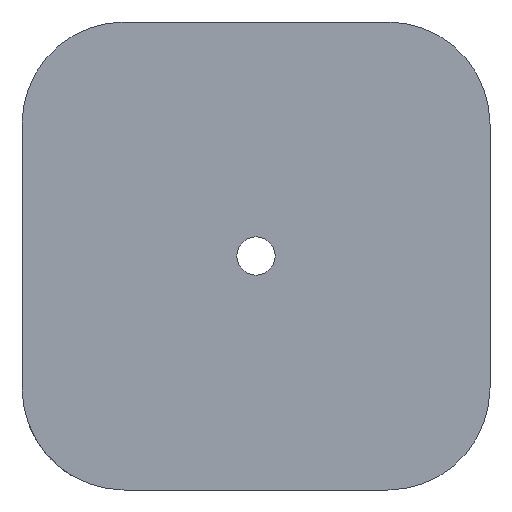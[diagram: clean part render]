
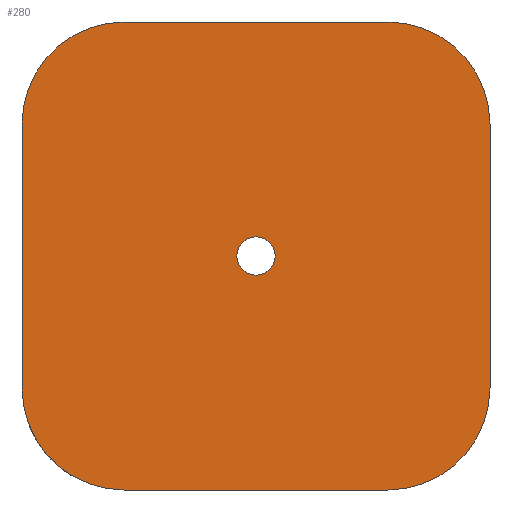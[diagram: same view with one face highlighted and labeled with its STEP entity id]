
A CAD part, front view. The second image highlights one B-rep face of the part: STEP entity #280.
In plain terms, the highlighted planar face has unit normal (0, -1, 0).
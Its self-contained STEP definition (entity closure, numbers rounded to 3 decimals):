
#16 = ORIENTED_EDGE ( 'NONE', *, *, #966, .F. ) ;
#23 = ORIENTED_EDGE ( 'NONE', *, *, #450, .T. ) ;
#29 = ORIENTED_EDGE ( 'NONE', *, *, #312, .T. ) ;
#45 = AXIS2_PLACEMENT_3D ( 'NONE', #93, #231, #182 ) ;
#83 = VERTEX_POINT ( 'NONE', #743 ) ;
#84 = DIRECTION ( 'NONE',  ( 0., -1., 0. ) ) ;
#93 = CARTESIAN_POINT ( 'NONE',  ( 15.5, 0., 15.5 ) ) ;
#117 = CIRCLE ( 'NONE', #835, 12. ) ;
#123 = DIRECTION ( 'NONE',  ( 0., 1., 0. ) ) ;
#135 = VERTEX_POINT ( 'NONE', #481 ) ;
#142 = VECTOR ( 'NONE', #458, 1000. ) ;
#158 = CIRCLE ( 'NONE', #511, 2.25 ) ;
#178 = DIRECTION ( 'NONE',  ( 0., 0., 1. ) ) ;
#182 = DIRECTION ( 'NONE',  ( 0., 0., 1. ) ) ;
#197 = DIRECTION ( 'NONE',  ( 0., 0., 1. ) ) ;
#207 = CARTESIAN_POINT ( 'NONE',  ( 0., 0., 0. ) ) ;
#231 = DIRECTION ( 'NONE',  ( 0., -1., 0. ) ) ;
#247 = CARTESIAN_POINT ( 'NONE',  ( 15.5, 0., 27.5 ) ) ;
#259 = EDGE_CURVE ( 'NONE', #725, #83, #328, .T. ) ;
#280 = ADVANCED_FACE ( 'NONE', ( #654, #332 ), #288, .F. ) ;
#284 = VERTEX_POINT ( 'NONE', #553 ) ;
#288 = PLANE ( 'NONE',  #847 ) ;
#298 = EDGE_CURVE ( 'NONE', #621, #750, #334, .T. ) ;
#311 = AXIS2_PLACEMENT_3D ( 'NONE', #853, #315, #909 ) ;
#312 = EDGE_CURVE ( 'NONE', #135, #794, #663, .T. ) ;
#315 = DIRECTION ( 'NONE',  ( 0., -1., 0. ) ) ;
#328 = CIRCLE ( 'NONE', #311, 12. ) ;
#331 = CARTESIAN_POINT ( 'NONE',  ( 15.5, 0., -15.5 ) ) ;
#332 = FACE_OUTER_BOUND ( 'NONE', #403, .T. ) ;
#334 = CIRCLE ( 'NONE', #885, 12. ) ;
#341 = DIRECTION ( 'NONE',  ( 0., -1., 0. ) ) ;
#347 = DIRECTION ( 'NONE',  ( 0., 0., 1. ) ) ;
#379 = VECTOR ( 'NONE', #564, 1000. ) ;
#384 = CARTESIAN_POINT ( 'NONE',  ( -27.5, 0., 27.5 ) ) ;
#385 = CIRCLE ( 'NONE', #894, 2.25 ) ;
#398 = ORIENTED_EDGE ( 'NONE', *, *, #298, .T. ) ;
#403 = EDGE_LOOP ( 'NONE', ( #16, #903, #693, #415, #992, #29, #700, #398 ) ) ;
#415 = ORIENTED_EDGE ( 'NONE', *, *, #735, .T. ) ;
#418 = CARTESIAN_POINT ( 'NONE',  ( 27.5, 0., 27.5 ) ) ;
#427 = EDGE_LOOP ( 'NONE', ( #918, #23 ) ) ;
#450 = EDGE_CURVE ( 'NONE', #730, #469, #385, .T. ) ;
#458 = DIRECTION ( 'NONE',  ( 0., 0., 1. ) ) ;
#461 = DIRECTION ( 'NONE',  ( 0., 0., 1. ) ) ;
#469 = VERTEX_POINT ( 'NONE', #522 ) ;
#470 = EDGE_CURVE ( 'NONE', #135, #284, #702, .T. ) ;
#481 = CARTESIAN_POINT ( 'NONE',  ( 27.5, 0., 15.5 ) ) ;
#484 = CARTESIAN_POINT ( 'NONE',  ( 27.5, 0., -27.5 ) ) ;
#486 = VECTOR ( 'NONE', #520, 1000. ) ;
#492 = LINE ( 'NONE', #484, #811 ) ;
#506 = DIRECTION ( 'NONE',  ( 0., 0., 1. ) ) ;
#509 = CARTESIAN_POINT ( 'NONE',  ( 0., 0., -2.25 ) ) ;
#511 = AXIS2_PLACEMENT_3D ( 'NONE', #207, #123, #197 ) ;
#520 = DIRECTION ( 'NONE',  ( 1., 0., 0. ) ) ;
#522 = CARTESIAN_POINT ( 'NONE',  ( 0., 0., 2.25 ) ) ;
#524 = CARTESIAN_POINT ( 'NONE',  ( 15.5, 0., -27.5 ) ) ;
#529 = CARTESIAN_POINT ( 'NONE',  ( -27.5, 0., 15.5 ) ) ;
#553 = CARTESIAN_POINT ( 'NONE',  ( 27.5, 0., -15.5 ) ) ;
#564 = DIRECTION ( 'NONE',  ( 0., 0., -1. ) ) ;
#570 = CARTESIAN_POINT ( 'NONE',  ( 27.5, 0., 27.5 ) ) ;
#578 = DIRECTION ( 'NONE',  ( -1., 0., 0. ) ) ;
#621 = VERTEX_POINT ( 'NONE', #863 ) ;
#623 = VERTEX_POINT ( 'NONE', #524 ) ;
#654 = FACE_BOUND ( 'NONE', #427, .T. ) ;
#663 = CIRCLE ( 'NONE', #45, 12. ) ;
#693 = ORIENTED_EDGE ( 'NONE', *, *, #977, .F. ) ;
#700 = ORIENTED_EDGE ( 'NONE', *, *, #869, .F. ) ;
#702 = LINE ( 'NONE', #570, #379 ) ;
#716 = EDGE_CURVE ( 'NONE', #469, #730, #158, .T. ) ;
#725 = VERTEX_POINT ( 'NONE', #824 ) ;
#730 = VERTEX_POINT ( 'NONE', #509 ) ;
#735 = EDGE_CURVE ( 'NONE', #623, #284, #117, .T. ) ;
#743 = CARTESIAN_POINT ( 'NONE',  ( -15.5, 0., -27.5 ) ) ;
#750 = VERTEX_POINT ( 'NONE', #529 ) ;
#752 = DIRECTION ( 'NONE',  ( 0., 1., 0. ) ) ;
#794 = VERTEX_POINT ( 'NONE', #247 ) ;
#798 = LINE ( 'NONE', #418, #486 ) ;
#807 = LINE ( 'NONE', #384, #142 ) ;
#811 = VECTOR ( 'NONE', #578, 1000. ) ;
#824 = CARTESIAN_POINT ( 'NONE',  ( -27.5, 0., -15.5 ) ) ;
#835 = AXIS2_PLACEMENT_3D ( 'NONE', #331, #341, #461 ) ;
#843 = DIRECTION ( 'NONE',  ( 0., 1., 0. ) ) ;
#847 = AXIS2_PLACEMENT_3D ( 'NONE', #978, #843, #506 ) ;
#853 = CARTESIAN_POINT ( 'NONE',  ( -15.5, 0., -15.5 ) ) ;
#863 = CARTESIAN_POINT ( 'NONE',  ( -15.5, 0., 27.5 ) ) ;
#869 = EDGE_CURVE ( 'NONE', #621, #794, #798, .T. ) ;
#885 = AXIS2_PLACEMENT_3D ( 'NONE', #889, #84, #178 ) ;
#889 = CARTESIAN_POINT ( 'NONE',  ( -15.5, 0., 15.5 ) ) ;
#894 = AXIS2_PLACEMENT_3D ( 'NONE', #924, #752, #347 ) ;
#903 = ORIENTED_EDGE ( 'NONE', *, *, #259, .T. ) ;
#909 = DIRECTION ( 'NONE',  ( 0., 0., 1. ) ) ;
#918 = ORIENTED_EDGE ( 'NONE', *, *, #716, .T. ) ;
#924 = CARTESIAN_POINT ( 'NONE',  ( 0., 0., 0. ) ) ;
#966 = EDGE_CURVE ( 'NONE', #725, #750, #807, .T. ) ;
#977 = EDGE_CURVE ( 'NONE', #623, #83, #492, .T. ) ;
#978 = CARTESIAN_POINT ( 'NONE',  ( 0., 0., 0. ) ) ;
#992 = ORIENTED_EDGE ( 'NONE', *, *, #470, .F. ) ;
